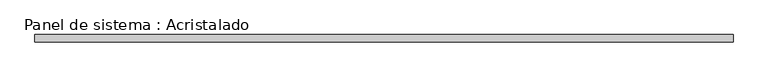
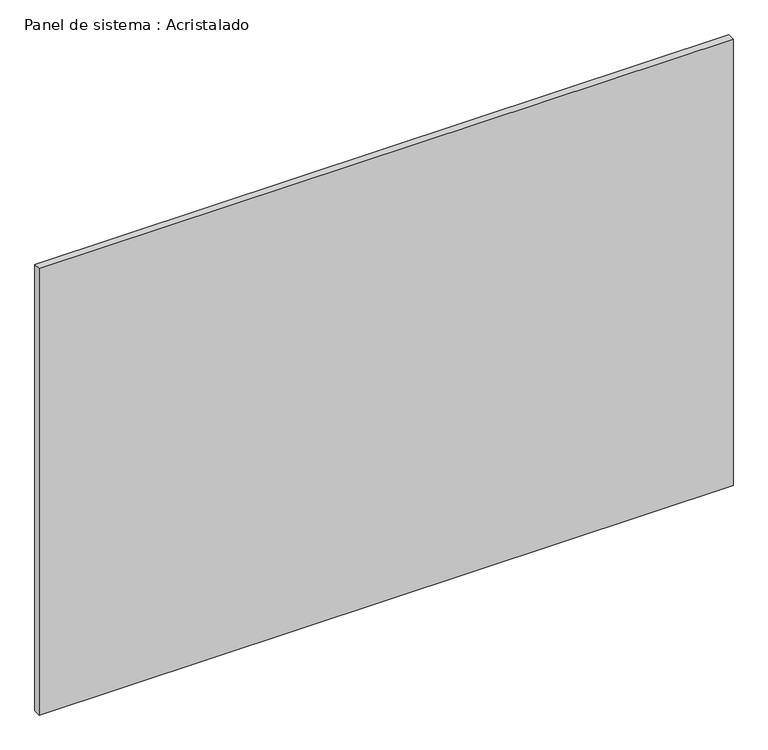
"""IFC4 building model written with IfcOpenShell, lengths in millimetres: plate geometry, Panel de sistema : Acristalado."""

import ifcopenshell
import ifcopenshell.guid

model = None  # the IFC model being written
_history = None  # IfcOwnerHistory: only IFC2X3 demands one
_inside = {}  # id of a spatial element -> (the spatial element, [elements in it])
_under = {}  # id of a project, library or spatial element -> (it, [spatial elements below it])
_declared = {}  # id of a project -> (the project, [libraries it declares])
_typed = {}  # id of a type object -> (the type object, [elements of that type])
_made_of = {}  # id of a material, layer set ... -> (it, [elements and type objects made of it])


def new_model(schema):
    """Start an empty IFC model of exactly this schema.

    Asked for "IFC4X3", IfcOpenShell would pick the latest addendum, in which some entities
    have other attributes; the version numbers below select the first issue.
    IFC2X3 requires an IfcOwnerHistory on every rooted entity: one is made here for all.
    """
    global model, _history
    if schema == "IFC4X3":
        model = ifcopenshell.file(schema_version=(4, 3, 0, 0))
    else:
        model = ifcopenshell.file(schema=schema)
    _inside.clear()
    _under.clear()
    _declared.clear()
    _typed.clear()
    _made_of.clear()
    _history = None
    if model.schema == "IFC2X3":
        org = make("IfcOrganization", Name="unknown")
        user = make(
            "IfcPersonAndOrganization",
            ThePerson=make("IfcPerson", FamilyName="unknown"),
            TheOrganization=org,
        )
        app = make(
            "IfcApplication",
            ApplicationDeveloper=org,
            Version="unknown",
            ApplicationFullName="unknown",
            ApplicationIdentifier="unknown",
        )
        _history = make(
            "IfcOwnerHistory",
            OwningUser=user,
            OwningApplication=app,
            ChangeAction="ADDED",
            CreationDate=0,
        )
    return model


def make(cls, **values):
    """One entity of the class cls with the attributes given. An attribute that is None is left unset."""
    return model.create_entity(
        cls, **{name: value for name, value in values.items() if value is not None}
    )


def rooted(cls, **values):
    """An entity with a GlobalId (a new one), such as an element, a storey or a relation."""
    return make(cls, GlobalId=ifcopenshell.guid.new(), OwnerHistory=_history, **values)


def si_unit(unit_type, name, prefix=None):
    """IfcSIUnit, for example si_unit("LENGTHUNIT", "METRE", prefix="MILLI")."""
    return make("IfcSIUnit", UnitType=unit_type, Prefix=prefix, Name=name)


def assignment(units):
    """IfcUnitAssignment: the units of a project."""
    return None if units is None else make("IfcUnitAssignment", Units=units)


def point(xyz):
    """IfcCartesianPoint."""
    return None if xyz is None else make("IfcCartesianPoint", Coordinates=xyz)


def direction(xyz):
    """IfcDirection."""
    return None if xyz is None else make("IfcDirection", DirectionRatios=xyz)


def frame(location, z_axis=None, x_axis=None):
    """IfcAxis2Placement3D, a coordinate frame: its origin and axes. An axis left out is left unset."""
    return make(
        "IfcAxis2Placement3D",
        Location=point(location),
        Axis=direction(z_axis),
        RefDirection=direction(x_axis),
    )


def origin():
    """The frame at (0, 0, 0) with its axes left unset."""
    return frame((0.0, 0.0, 0.0))


def origin_with_axes():
    """The frame at (0, 0, 0) with the z axis (0, 0, 1) and the x axis (1, 0, 0) written out."""
    return frame((0.0, 0.0, 0.0), z_axis=(0.0, 0.0, 1.0), x_axis=(1.0, 0.0, 0.0))


def place(relative_to, where):
    """IfcLocalPlacement: puts the frame where relative to a parent placement (None: the world)."""
    return make(
        "IfcLocalPlacement", PlacementRelTo=relative_to, RelativePlacement=where
    )


def context(
    kind, dimensions, precision=None, world=None, true_north=None, identifier=None
):
    """IfcGeometricRepresentationContext, for example the 3D "Model" context."""
    return make(
        "IfcGeometricRepresentationContext",
        ContextIdentifier=identifier,
        ContextType=kind,
        CoordinateSpaceDimension=dimensions,
        Precision=precision,
        WorldCoordinateSystem=world,
        TrueNorth=true_north,
    )


def project(units=None, contexts=None):
    """IfcProject with its units and contexts."""
    return rooted(
        "IfcProject",
        Name="project",
        RepresentationContexts=contexts,
        UnitsInContext=assignment(units),
    )


def spatial(cls, under=None, at=None, **own):
    """A site, building, storey or space (cls), placed at a placement, below another one or the project."""
    s = rooted(cls, ObjectPlacement=at, **own)
    if under is not None:
        _under.setdefault(under.id(), (under, []))[1].append(s)
    return s


def polyline(points):
    """IfcPolyline through the points."""
    return make("IfcPolyline", Points=[point(p) for p in points])


def outline(outer, holes=None, kind="AREA"):
    """IfcArbitraryClosedProfileDef: a profile drawn as a closed curve; with holes, ...WithVoids."""
    if holes is None:
        return make("IfcArbitraryClosedProfileDef", ProfileType=kind, OuterCurve=outer)
    return make(
        "IfcArbitraryProfileDefWithVoids",
        ProfileType=kind,
        OuterCurve=outer,
        InnerCurves=holes,
    )


def extrude(swept, where, along, depth):
    """IfcExtrudedAreaSolid: the profile swept, set in the frame where, extruded along a direction by depth."""
    return make(
        "IfcExtrudedAreaSolid",
        SweptArea=swept,
        Position=where,
        ExtrudedDirection=direction(along),
        Depth=depth,
    )


def shape(context_of_items, identifier, shape_type, items):
    """IfcShapeRepresentation: the items that make up one representation, for example the "Body"."""
    return make(
        "IfcShapeRepresentation",
        ContextOfItems=context_of_items,
        RepresentationIdentifier=identifier,
        RepresentationType=shape_type,
        Items=items,
    )


def source(mapping_origin, context_of_items, identifier, shape_type, items):
    """IfcRepresentationMap: a shape defined once, which mapped items show again and again."""
    return make(
        "IfcRepresentationMap",
        MappingOrigin=mapping_origin,
        MappedRepresentation=shape(context_of_items, identifier, shape_type, items),
    )


def transform(
    local_origin,
    x_axis=None,
    y_axis=None,
    z_axis=None,
    scale=None,
    scale2=None,
    scale3=None,
    uniform=True,
):
    """IfcCartesianTransformationOperator3D, or its non-uniform kind. x_axis, y_axis, z_axis: its Axis1, 2, 3."""
    if uniform:
        return make(
            "IfcCartesianTransformationOperator3D",
            Axis1=direction(x_axis),
            Axis2=direction(y_axis),
            LocalOrigin=point(local_origin),
            Scale=scale,
            Axis3=direction(z_axis),
        )
    return make(
        "IfcCartesianTransformationOperator3DnonUniform",
        Axis1=direction(x_axis),
        Axis2=direction(y_axis),
        LocalOrigin=point(local_origin),
        Scale=scale,
        Axis3=direction(z_axis),
        Scale2=scale2,
        Scale3=scale3,
    )


def mapped(mapping_source, mapping_target):
    """IfcMappedItem: shows the shape of a source again, moved by a transform."""
    return make(
        "IfcMappedItem", MappingSource=mapping_source, MappingTarget=mapping_target
    )


def made_of(thing, what):
    """Note that an element or type object is made of a material, layer set ...; save() writes the relation."""
    if what is not None:
        _made_of.setdefault(what.id(), (what, []))[1].append(thing)
    return thing


def element(
    cls,
    number,
    at=None,
    inside=None,
    cuts=None,
    type_object=None,
    material=None,
    context=None,
    identifier="Body",
    shape_type=None,
    held_by="IfcProductDefinitionShape",
    body=None,
    shapes=None,
    **own,
):
    """One element of the class cls, such as IfcWall. Its Tag is "e" and its number.

    at: its placement. inside: the storey or other place that contains it. cuts: it is an
    opening in that element (IfcRelVoidsElement). A single representation is given by context,
    identifier, shape_type and body (its items); several are given by shapes. held_by: the class
    of the entity that holds the representations. save() writes the other relations.
    """
    e = rooted(cls, Tag="e%d" % number, ObjectPlacement=at, **own)
    if body is not None:
        shapes = [shape(context, identifier, shape_type, body)]
    if shapes is not None:
        e.Representation = make(held_by, Representations=shapes)
    if inside is not None:
        _inside.setdefault(inside.id(), (inside, []))[1].append(e)
    if cuts is not None:
        rooted(
            "IfcRelVoidsElement", RelatingBuildingElement=cuts, RelatedOpeningElement=e
        )
    if type_object is not None:
        _typed.setdefault(type_object.id(), (type_object, []))[1].append(e)
    return made_of(e, material)


def aggregate(whole, parts):
    """IfcRelAggregates: a whole, such as a stair, and the parts it consists of."""
    return rooted("IfcRelAggregates", RelatingObject=whole, RelatedObjects=parts)


def save(model, path):
    """Write the relations noted so far, then the file.

    IfcRelAggregates (storeys below a building ...), IfcRelContainedInSpatialStructure (elements
    in a storey), IfcRelDefinesByType, IfcRelAssociatesMaterial and IfcRelDeclares: one each for
    every whole, place, type object, material and project.
    """
    for whole, parts in _under.values():
        aggregate(whole, parts)
    for where, things in _inside.values():
        rooted(
            "IfcRelContainedInSpatialStructure",
            RelatedElements=things,
            RelatingStructure=where,
        )
    for kind, things in _typed.values():
        rooted("IfcRelDefinesByType", RelatedObjects=things, RelatingType=kind)
    for what, things in _made_of.values():
        rooted("IfcRelAssociatesMaterial", RelatedObjects=things, RelatingMaterial=what)
    for by, libraries in _declared.values():
        rooted("IfcRelDeclares", RelatingContext=by, RelatedDefinitions=libraries)
    model.write(path)


def panel_de_sistema_acristalado_2a12ac4a(model_context):
    return source(origin(), model_context, "Body", "SweptSolid", [
        extrude(outline(polyline([(944.2647694, -10.0), (-944.2647694, -10.0), (-944.2647694, 10.0), (944.2647694, 10.0), (944.2647694, -10.0)])), origin_with_axes(), (0.0, 0.0, 1.0), 1285.0),
    ])


if __name__ == "__main__":
    model = new_model("IFC4")
    model_context = context("Model", 3, world=origin())
    ifc_project = project(units=[si_unit("LENGTHUNIT", "METRE", prefix="MILLI")], contexts=[model_context])
    site = spatial("IfcSite", under=ifc_project)
    building = spatial("IfcBuilding", under=site)
    placement = place(None, origin())
    panel_de_sistema_acristalado_shape = panel_de_sistema_acristalado_2a12ac4a(model_context)
    element("IfcPlate", 1, ObjectType="Panel de sistema : Acristalado", at=placement, inside=building, context=model_context, shape_type="MappedRepresentation", body=[
        mapped(panel_de_sistema_acristalado_shape, transform((0.0, 0.0, 0.0), x_axis=(1.0, 0.0, 0.0), y_axis=(0.0, 1.0, 0.0), z_axis=(0.0, 0.0, 1.0))),
    ])
    save(model, "model.ifc")
